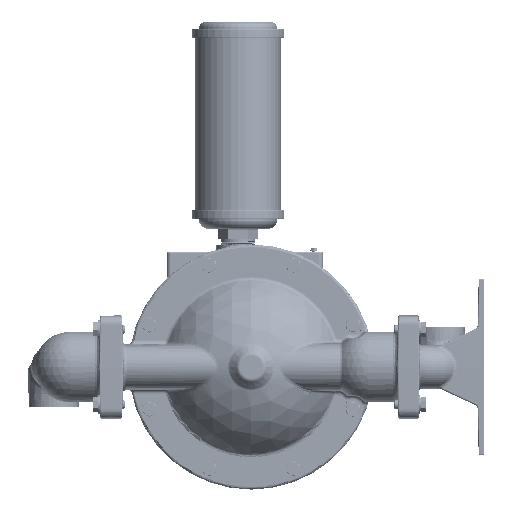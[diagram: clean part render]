
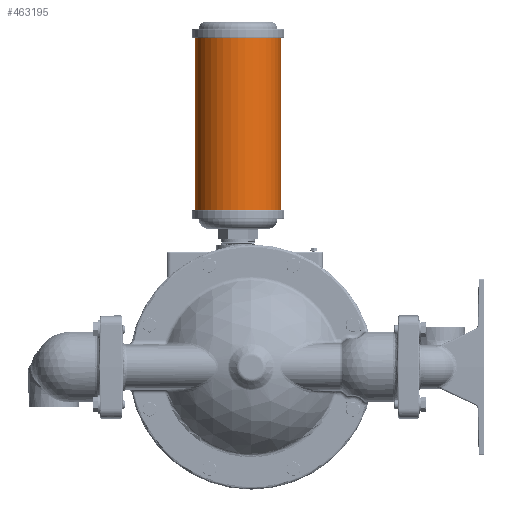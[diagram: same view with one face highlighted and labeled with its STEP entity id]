
A CAD part, left-side view. The second image highlights one B-rep face of the part: STEP entity #463195.
In plain terms, the highlighted cylindrical face has radius 61.722 mm (diameter 123.444 mm), a partial arc.
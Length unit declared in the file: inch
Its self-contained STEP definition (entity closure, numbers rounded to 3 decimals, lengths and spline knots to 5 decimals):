
#10720 = DIRECTION ( 'NONE',  ( 0., 0., 1. ) ) ;
#19053 = AXIS2_PLACEMENT_3D ( 'NONE', #129246, #46454, #357790 ) ;
#23253 = VECTOR ( 'NONE', #10720, 39.37008 ) ;
#35210 = CARTESIAN_POINT ( 'NONE',  ( 5.9155, 3.18, 8.905 ) ) ;
#46454 = DIRECTION ( 'NONE',  ( 0., 0., -1. ) ) ;
#48386 = LINE ( 'NONE', #201591, #23253 ) ;
#66039 = EDGE_CURVE ( 'NONE', #290770, #309593, #144604, .T. ) ;
#88310 = AXIS2_PLACEMENT_3D ( 'NONE', #236436, #382153, #392080 ) ;
#127053 = DIRECTION ( 'NONE',  ( 0., 1., 0. ) ) ;
#129246 = CARTESIAN_POINT ( 'NONE',  ( 5.9155, 0.75, 20.1725 ) ) ;
#144014 = EDGE_LOOP ( 'NONE', ( #211899, #402687, #463244, #341626 ) ) ;
#144604 = CIRCLE ( 'NONE', #88310, 2.43 ) ;
#144957 = CARTESIAN_POINT ( 'NONE',  ( 5.9155, -1.68, 8.905 ) ) ;
#157098 = EDGE_CURVE ( 'NONE', #309593, #355745, #48386, .T. ) ;
#197748 = EDGE_CURVE ( 'NONE', #355970, #355745, #341107, .T. ) ;
#201591 = CARTESIAN_POINT ( 'NONE',  ( 5.9155, -1.68, 8.905 ) ) ;
#204603 = FACE_OUTER_BOUND ( 'NONE', #144014, .T. ) ;
#211899 = ORIENTED_EDGE ( 'NONE', *, *, #66039, .T. ) ;
#236436 = CARTESIAN_POINT ( 'NONE',  ( 5.9155, 0.75, 8.905 ) ) ;
#285206 = DIRECTION ( 'NONE',  ( 0., 0., 1. ) ) ;
#290536 = CARTESIAN_POINT ( 'NONE',  ( 5.9155, 3.18, 18.685 ) ) ;
#290770 = VERTEX_POINT ( 'NONE', #35210 ) ;
#309593 = VERTEX_POINT ( 'NONE', #144957 ) ;
#341107 = CIRCLE ( 'NONE', #357255, 2.43 ) ;
#341626 = ORIENTED_EDGE ( 'NONE', *, *, #363038, .F. ) ;
#348558 = VECTOR ( 'NONE', #285206, 39.37008 ) ;
#352841 = CYLINDRICAL_SURFACE ( 'NONE', #19053, 2.43 ) ;
#355588 = CARTESIAN_POINT ( 'NONE',  ( 5.9155, 0.75, 18.685 ) ) ;
#355745 = VERTEX_POINT ( 'NONE', #406043 ) ;
#355970 = VERTEX_POINT ( 'NONE', #290536 ) ;
#357255 = AXIS2_PLACEMENT_3D ( 'NONE', #355588, #440842, #127053 ) ;
#357790 = DIRECTION ( 'NONE',  ( 0., -1., 0. ) ) ;
#363038 = EDGE_CURVE ( 'NONE', #290770, #355970, #388328, .T. ) ;
#382153 = DIRECTION ( 'NONE',  ( 0., 0., 1. ) ) ;
#388328 = LINE ( 'NONE', #400678, #348558 ) ;
#392080 = DIRECTION ( 'NONE',  ( 0., 1., 0. ) ) ;
#400678 = CARTESIAN_POINT ( 'NONE',  ( 5.9155, 3.18, 8.905 ) ) ;
#402687 = ORIENTED_EDGE ( 'NONE', *, *, #157098, .T. ) ;
#406043 = CARTESIAN_POINT ( 'NONE',  ( 5.9155, -1.68, 18.685 ) ) ;
#440842 = DIRECTION ( 'NONE',  ( 0., 0., 1. ) ) ;
#463195 = ADVANCED_FACE ( 'NONE', ( #204603 ), #352841, .T. ) ;
#463244 = ORIENTED_EDGE ( 'NONE', *, *, #197748, .F. ) ;
